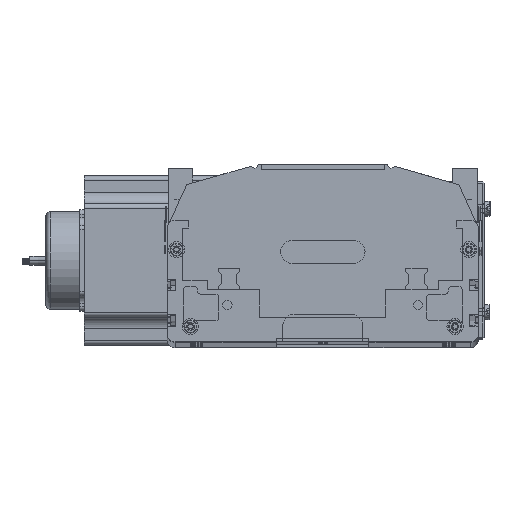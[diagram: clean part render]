
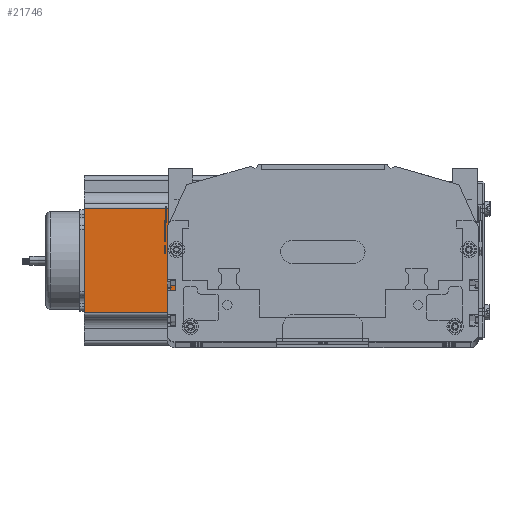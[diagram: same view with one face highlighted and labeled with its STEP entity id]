
A CAD part, top view. The second image highlights one B-rep face of the part: STEP entity #21746.
In plain terms, the highlighted planar face has unit normal (0, 0, 1) as drawn and (0, -1, 0) by its records, which use the part's own axes.
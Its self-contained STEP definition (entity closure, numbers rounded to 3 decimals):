
#14613 = EDGE_CURVE ( 'NONE', #21729, #21723, #51506, .T. ) ;
#21676 = EDGE_LOOP ( 'NONE', ( #21748, #21747, #21793, #21802 ) ) ;
#21721 = VERTEX_POINT ( 'NONE', #72638 ) ;
#21723 = VERTEX_POINT ( 'NONE', #72636 ) ;
#21729 = VERTEX_POINT ( 'NONE', #72446 ) ;
#21740 = VERTEX_POINT ( 'NONE', #72855 ) ;
#21741 = EDGE_CURVE ( 'NONE', #21723, #21721, #72838, .T. ) ;
#21746 = ADVANCED_FACE ( 'NONE', ( #72853 ), #72843, .F. ) ;
#21747 = ORIENTED_EDGE ( 'NONE', *, *, #21749, .T. ) ;
#21748 = ORIENTED_EDGE ( 'NONE', *, *, #21741, .T. ) ;
#21749 = EDGE_CURVE ( 'NONE', #21721, #21740, #72689, .T. ) ;
#21793 = ORIENTED_EDGE ( 'NONE', *, *, #21800, .F. ) ;
#21800 = EDGE_CURVE ( 'NONE', #21729, #21740, #72728, .T. ) ;
#21802 = ORIENTED_EDGE ( 'NONE', *, *, #14613, .T. ) ;
#51473 = DIRECTION ( 'NONE',  ( 0., 0., -1. ) ) ;
#51474 = VECTOR ( 'NONE', #51473, 1000. ) ;
#51475 = CARTESIAN_POINT ( 'NONE',  ( 21.048, 0., 160.5 ) ) ;
#51506 = LINE ( 'NONE', #51475, #51474 ) ;
#72446 = CARTESIAN_POINT ( 'NONE',  ( 21.048, 0., 160.5 ) ) ;
#72636 = CARTESIAN_POINT ( 'NONE',  ( 21.048, 0., 0. ) ) ;
#72638 = CARTESIAN_POINT ( 'NONE',  ( 88.952, 0., 0. ) ) ;
#72684 = DIRECTION ( 'NONE',  ( 0., 0., 1. ) ) ;
#72685 = VECTOR ( 'NONE', #72684, 1000. ) ;
#72686 = CARTESIAN_POINT ( 'NONE',  ( 88.952, 0., 160.5 ) ) ;
#72688 = DIRECTION ( 'NONE',  ( 0., 0., 1. ) ) ;
#72689 = LINE ( 'NONE', #72686, #72685 ) ;
#72693 = DIRECTION ( 'NONE',  ( 0., 1., 0. ) ) ;
#72694 = CARTESIAN_POINT ( 'NONE',  ( 0., 0., 160.5 ) ) ;
#72727 = CARTESIAN_POINT ( 'NONE',  ( 0., 0., 160.5 ) ) ;
#72728 = LINE ( 'NONE', #72727, #72734 ) ;
#72734 = VECTOR ( 'NONE', #72807, 1000. ) ;
#72807 = DIRECTION ( 'NONE',  ( 1., 0., 0. ) ) ;
#72838 = LINE ( 'NONE', #72852, #72845 ) ;
#72843 = PLANE ( 'NONE',  #72846 ) ;
#72844 = DIRECTION ( 'NONE',  ( 1., 0., 0. ) ) ;
#72845 = VECTOR ( 'NONE', #72844, 1000. ) ;
#72846 = AXIS2_PLACEMENT_3D ( 'NONE', #72694, #72693, #72688 ) ;
#72852 = CARTESIAN_POINT ( 'NONE',  ( 0., 0., 0. ) ) ;
#72853 = FACE_OUTER_BOUND ( 'NONE', #21676, .T. ) ;
#72855 = CARTESIAN_POINT ( 'NONE',  ( 88.952, 0., 160.5 ) ) ;
